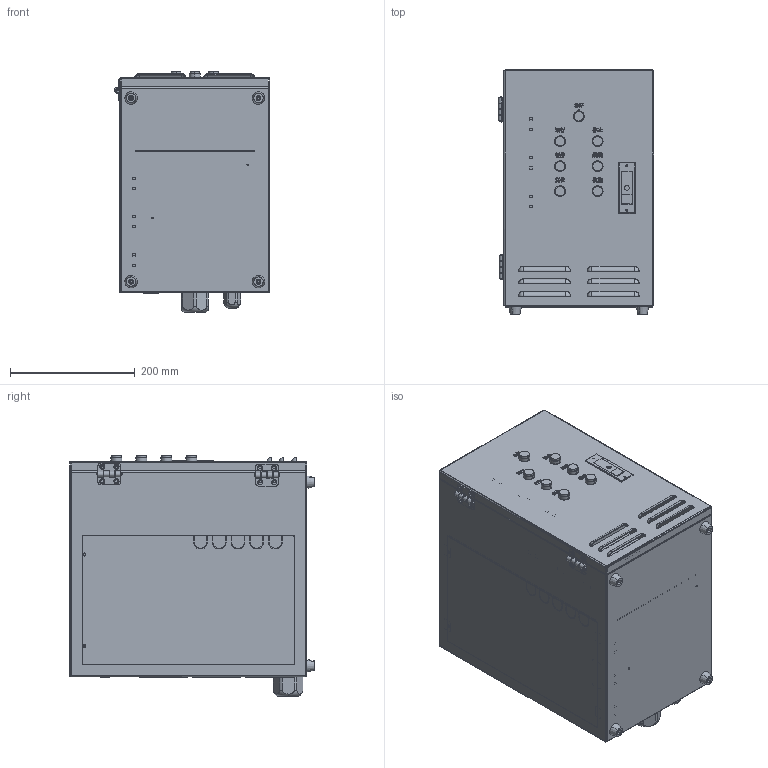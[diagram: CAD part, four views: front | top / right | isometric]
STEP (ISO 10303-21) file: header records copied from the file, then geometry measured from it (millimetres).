
FILE_DESCRIPTION (( 'STEP AP214' ), '1' );
FILE_NAME ('SCARA¿ØÖÆÏä×Ó.STEP', '2018-01-06T03:53:43', ( 'Windows' ), ( 'Microsoft' ), 'SwSTEP 2.0', 'SolidWorks 2016', '' );
FILE_SCHEMA (( 'AUTOMOTIVE_DESIGN' ));
Length unit declared in the file: millimetre
Products named in the file (27): HI_HFL01-37-002; SCARA諷秶眊赽; HI_HFL01-37-001; TSR0033-711-0藷啣; TSR0033-702-0 藷啣; TSR0033-712-0耜啣; 傷赽怢郪璃; 臏寢11_蕼偞; 盄羞媼; 盄羞珨; 8025; 萇擢嘐隅芛 PG11; 萇擢嘐隅芛 PG29; TSR0033-710-0眊极; 褐菜; 猾輸; USB諉盄芛; 崨盄輸; 厙盄諉芛; 紫輸媼; 藷啣郪磁极; 紫輸; MET1301 萇眊藷坶; 殤啣; 偌聽; TSR0033-701-0 眊极; HFL01-37
Assembly tree (57 placements, depth 4):
  SCARA諷秶眊赽
    TSR0033-710-0眊极
      TSR0033-701-0 眊极
      殤啣
      紫輸  x2
      紫輸媼  x2
      崨盄輸  x10
      猾輸  x3
    萇擢嘐隅芛 PG29
    萇擢嘐隅芛 PG11
    8025  x2
    盄羞珨  x3
    盄羞媼  x2
    傷赽怢郪璃
      臏寢11_蕼偞
    TSR0033-712-0耜啣
    藷啣郪磁极
      TSR0033-711-0藷啣
        TSR0033-702-0 藷啣
        崨盄輸  x3
      HFL01-37  x2
        HI_HFL01-37-001
        HI_HFL01-37-002
      偌聽  x7
      MET1301 萇眊藷坶
    厙盄諉芛
    USB諉盄芛
    褐菜  x4
Bounding box: 249 x 392 x 385.7 mm (x, y, z)
Volume: 1528642.1 mm3; surface area: 1793309.6 mm2
Topology: 47 solids, 68 shells, 3170 faces, 8027 edges, 5098 vertices
Faces by surface type: plane 2080, cylinder 748, bspline 254, cone 32, torus 28, sphere 28
Entity records: 85980 total; most frequent: CARTESIAN_POINT 24600, ORIENTED_EDGE 10624, DIRECTION 9414, EDGE_CURVE 5312, LINE 3722, VECTOR 3722, VERTEX_POINT 3436, AXIS2_PLACEMENT_3D 2846
